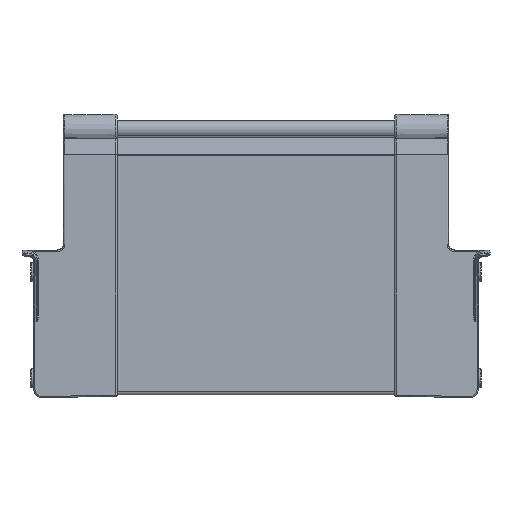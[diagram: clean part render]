
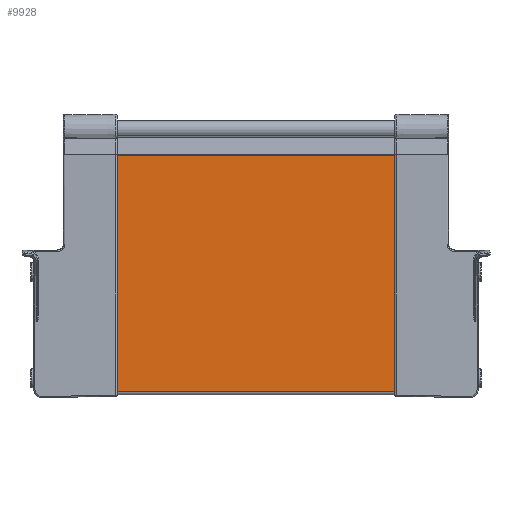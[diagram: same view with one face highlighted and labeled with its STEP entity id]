
A CAD part, top view. The second image highlights one B-rep face of the part: STEP entity #9928.
In plain terms, the highlighted planar face has unit normal (0, 0, 1).
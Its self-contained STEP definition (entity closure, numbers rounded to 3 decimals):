
#2407 = CARTESIAN_POINT ( 'NONE',  ( -38.8, -64.725, 4.05 ) ) ;
#2408 = DIRECTION ( 'NONE',  ( 0., -1., 0. ) ) ;
#2409 = VECTOR ( 'NONE', #2408, 1000. ) ;
#2410 = CARTESIAN_POINT ( 'NONE',  ( -38.8, 45.248, 4.05 ) ) ;
#2411 = LINE ( 'NONE', #2410, #2409 ) ;
#2412 = CARTESIAN_POINT ( 'NONE',  ( -38.8, 45.248, 4.05 ) ) ;
#5960 = DIRECTION ( 'NONE',  ( 0., -1., 0. ) ) ;
#5961 = VECTOR ( 'NONE', #5960, 1000. ) ;
#5962 = CARTESIAN_POINT ( 'NONE',  ( -168.3, 45.248, 4.05 ) ) ;
#5963 = DIRECTION ( 'NONE',  ( 0., 1., 0. ) ) ;
#5964 = DIRECTION ( 'NONE',  ( 0., 0., -1. ) ) ;
#5965 = CARTESIAN_POINT ( 'NONE',  ( 89.157, 45.248, 4.05 ) ) ;
#5966 = AXIS2_PLACEMENT_3D ( 'NONE', #5965, #5964, #5963 ) ;
#5967 = PLANE ( 'NONE',  #5966 ) ;
#5968 = LINE ( 'NONE', #5962, #5961 ) ;
#5969 = FACE_OUTER_BOUND ( 'NONE', #9929, .T. ) ;
#6027 = CARTESIAN_POINT ( 'NONE',  ( -168.3, -64.725, 4.05 ) ) ;
#6062 = CARTESIAN_POINT ( 'NONE',  ( 89.157, -64.725, 4.05 ) ) ;
#6063 = LINE ( 'NONE', #6062, #6121 ) ;
#6091 = LINE ( 'NONE', #6155, #6154 ) ;
#6092 = CARTESIAN_POINT ( 'NONE',  ( -168.3, 45.248, 4.05 ) ) ;
#6120 = DIRECTION ( 'NONE',  ( -1., 0., 0. ) ) ;
#6121 = VECTOR ( 'NONE', #6120, 1000. ) ;
#6153 = DIRECTION ( 'NONE',  ( -1., 0., 0. ) ) ;
#6154 = VECTOR ( 'NONE', #6153, 1000. ) ;
#6155 = CARTESIAN_POINT ( 'NONE',  ( 89.157, 45.248, 4.05 ) ) ;
#8893 = VERTEX_POINT ( 'NONE', #2412 ) ;
#8895 = EDGE_CURVE ( 'NONE', #8893, #8896, #2411, .T. ) ;
#8896 = VERTEX_POINT ( 'NONE', #2407 ) ;
#9928 = ADVANCED_FACE ( 'NONE', ( #5969 ), #5967, .F. ) ;
#9929 = EDGE_LOOP ( 'NONE', ( #9930, #9931, #9932, #9988 ) ) ;
#9930 = ORIENTED_EDGE ( 'NONE', *, *, #8895, .F. ) ;
#9931 = ORIENTED_EDGE ( 'NONE', *, *, #10005, .T. ) ;
#9932 = ORIENTED_EDGE ( 'NONE', *, *, #9933, .T. ) ;
#9933 = EDGE_CURVE ( 'NONE', #10003, #9934, #5968, .T. ) ;
#9934 = VERTEX_POINT ( 'NONE', #6027 ) ;
#9988 = ORIENTED_EDGE ( 'NONE', *, *, #9989, .F. ) ;
#9989 = EDGE_CURVE ( 'NONE', #8896, #9934, #6063, .T. ) ;
#10003 = VERTEX_POINT ( 'NONE', #6092 ) ;
#10005 = EDGE_CURVE ( 'NONE', #8893, #10003, #6091, .T. ) ;
